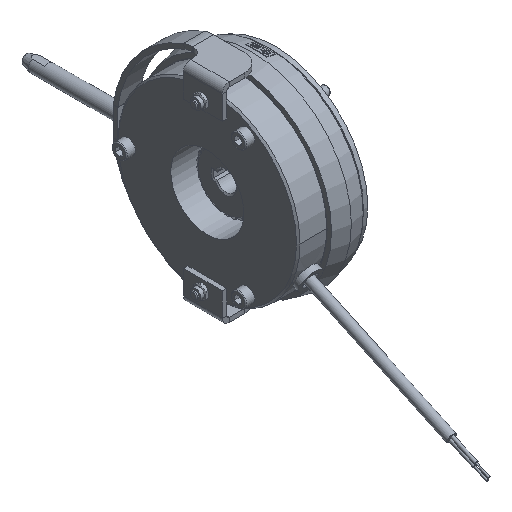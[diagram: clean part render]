
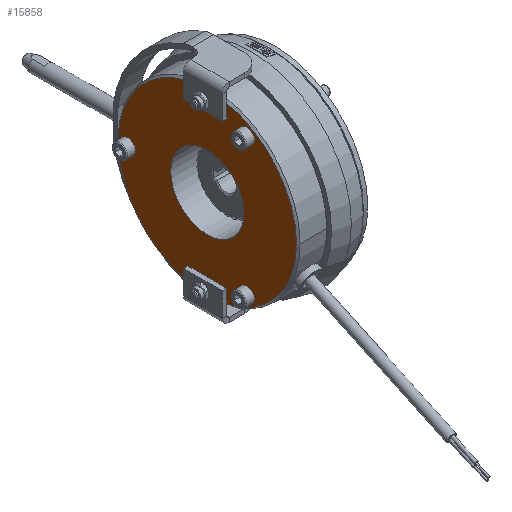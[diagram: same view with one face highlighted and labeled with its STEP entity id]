
A CAD part, isometric view. The second image highlights one B-rep face of the part: STEP entity #15858.
In plain terms, the highlighted planar face has unit normal (-1, 0, 0).
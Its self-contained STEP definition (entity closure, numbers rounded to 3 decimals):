
#233=FACE_BOUND('',#2290,.T.);
#234=FACE_BOUND('',#2291,.T.);
#235=FACE_BOUND('',#2292,.T.);
#236=FACE_BOUND('',#2293,.T.);
#625=PLANE('',#17413);
#1447=FACE_OUTER_BOUND('',#2289,.T.);
#2289=EDGE_LOOP('',(#14006,#14007,#14008,#14009,#14010,#14011,#14012,#14013,
#14014));
#2290=EDGE_LOOP('',(#14015,#14016));
#2291=EDGE_LOOP('',(#14017,#14018));
#2292=EDGE_LOOP('',(#14019,#14020));
#2293=EDGE_LOOP('',(#14021));
#3154=CIRCLE('',#16441,4.25);
#3155=CIRCLE('',#16442,4.25);
#3168=CIRCLE('',#16469,4.25);
#3169=CIRCLE('',#16470,4.25);
#3182=CIRCLE('',#16497,4.25);
#3183=CIRCLE('',#16498,4.25);
#3649=CIRCLE('',#17410,50.5);
#3650=CIRCLE('',#17411,50.5);
#3651=CIRCLE('',#17412,50.5);
#3652=CIRCLE('',#17414,20.75);
#4436=LINE('',#32716,#5325);
#4442=LINE('',#32733,#5331);
#4446=LINE('',#32739,#5335);
#4457=LINE('',#32768,#5346);
#4464=LINE('',#32784,#5353);
#4466=LINE('',#32787,#5355);
#5325=VECTOR('',#20903,10.);
#5331=VECTOR('',#20923,10.);
#5335=VECTOR('',#20929,10.);
#5346=VECTOR('',#20958,10.);
#5353=VECTOR('',#20975,10.);
#5355=VECTOR('',#20979,10.);
#6339=VERTEX_POINT('',#30624);
#6340=VERTEX_POINT('',#30625);
#6366=VERTEX_POINT('',#30716);
#6367=VERTEX_POINT('',#30717);
#6393=VERTEX_POINT('',#30808);
#6394=VERTEX_POINT('',#30809);
#6853=VERTEX_POINT('',#32641);
#6854=VERTEX_POINT('',#32642);
#6882=VERTEX_POINT('',#32713);
#6883=VERTEX_POINT('',#32715);
#6884=VERTEX_POINT('',#32719);
#6887=VERTEX_POINT('',#32732);
#6897=VERTEX_POINT('',#32767);
#6901=VERTEX_POINT('',#32782);
#6990=VERTEX_POINT('',#33248);
#6991=VERTEX_POINT('',#33254);
#8265=EDGE_CURVE('',#6339,#6340,#3154,.T.);
#8266=EDGE_CURVE('',#6340,#6339,#3155,.T.);
#8302=EDGE_CURVE('',#6366,#6367,#3168,.T.);
#8303=EDGE_CURVE('',#6367,#6366,#3169,.T.);
#8339=EDGE_CURVE('',#6393,#6394,#3182,.T.);
#8340=EDGE_CURVE('',#6394,#6393,#3183,.T.);
#9141=EDGE_CURVE('',#6883,#6882,#4436,.T.);
#9150=EDGE_CURVE('',#6887,#6884,#4442,.T.);
#9154=EDGE_CURVE('',#6882,#6887,#4446,.T.);
#9168=EDGE_CURVE('',#6897,#6853,#4457,.T.);
#9177=EDGE_CURVE('',#6854,#6901,#4464,.T.);
#9179=EDGE_CURVE('',#6901,#6897,#4466,.T.);
#9337=EDGE_CURVE('',#6990,#6884,#3649,.T.);
#9338=EDGE_CURVE('',#6883,#6853,#3650,.T.);
#9339=EDGE_CURVE('',#6854,#6990,#3651,.T.);
#9340=EDGE_CURVE('',#6991,#6991,#3652,.T.);
#14006=ORIENTED_EDGE('',*,*,#9150,.T.);
#14007=ORIENTED_EDGE('',*,*,#9337,.F.);
#14008=ORIENTED_EDGE('',*,*,#9339,.F.);
#14009=ORIENTED_EDGE('',*,*,#9177,.T.);
#14010=ORIENTED_EDGE('',*,*,#9179,.T.);
#14011=ORIENTED_EDGE('',*,*,#9168,.T.);
#14012=ORIENTED_EDGE('',*,*,#9338,.F.);
#14013=ORIENTED_EDGE('',*,*,#9141,.T.);
#14014=ORIENTED_EDGE('',*,*,#9154,.T.);
#14015=ORIENTED_EDGE('',*,*,#8265,.T.);
#14016=ORIENTED_EDGE('',*,*,#8266,.T.);
#14017=ORIENTED_EDGE('',*,*,#8302,.T.);
#14018=ORIENTED_EDGE('',*,*,#8303,.T.);
#14019=ORIENTED_EDGE('',*,*,#8339,.T.);
#14020=ORIENTED_EDGE('',*,*,#8340,.T.);
#14021=ORIENTED_EDGE('',*,*,#9340,.T.);
#15858=ADVANCED_FACE('',(#1447,#233,#234,#235,#236),#625,.T.);
#16441=AXIS2_PLACEMENT_3D('',#30626,#18959,#18960);
#16442=AXIS2_PLACEMENT_3D('',#30627,#18961,#18962);
#16469=AXIS2_PLACEMENT_3D('',#30718,#19031,#19032);
#16470=AXIS2_PLACEMENT_3D('',#30719,#19033,#19034);
#16497=AXIS2_PLACEMENT_3D('',#30810,#19103,#19104);
#16498=AXIS2_PLACEMENT_3D('',#30811,#19105,#19106);
#17410=AXIS2_PLACEMENT_3D('',#33250,#21360,#21361);
#17411=AXIS2_PLACEMENT_3D('',#33251,#21362,#21363);
#17412=AXIS2_PLACEMENT_3D('',#33252,#21364,#21365);
#17413=AXIS2_PLACEMENT_3D('',#33253,#21366,#21367);
#17414=AXIS2_PLACEMENT_3D('',#33255,#21368,#21369);
#18959=DIRECTION('center_axis',(1.,0.,0.));
#18960=DIRECTION('ref_axis',(0.,-1.,0.));
#18961=DIRECTION('center_axis',(1.,0.,0.));
#18962=DIRECTION('ref_axis',(0.,-1.,0.));
#19031=DIRECTION('center_axis',(1.,0.,0.));
#19032=DIRECTION('ref_axis',(0.,-1.,0.));
#19033=DIRECTION('center_axis',(1.,0.,0.));
#19034=DIRECTION('ref_axis',(0.,-1.,0.));
#19103=DIRECTION('center_axis',(1.,0.,0.));
#19104=DIRECTION('ref_axis',(0.,-1.,0.));
#19105=DIRECTION('center_axis',(1.,0.,0.));
#19106=DIRECTION('ref_axis',(0.,-1.,0.));
#20903=DIRECTION('',(0.,0.,-1.));
#20923=DIRECTION('',(0.,0.,1.));
#20929=DIRECTION('',(0.,1.,0.));
#20958=DIRECTION('',(0.,0.,-1.));
#20975=DIRECTION('',(0.,0.,1.));
#20979=DIRECTION('',(0.,-1.,0.));
#21360=DIRECTION('center_axis',(1.,0.,0.));
#21361=DIRECTION('ref_axis',(0.,-1.,0.));
#21362=DIRECTION('center_axis',(1.,0.,0.));
#21363=DIRECTION('ref_axis',(0.,-1.,0.));
#21364=DIRECTION('center_axis',(1.,0.,0.));
#21365=DIRECTION('ref_axis',(0.,-1.,0.));
#21366=DIRECTION('center_axis',(-1.,0.,0.));
#21367=DIRECTION('ref_axis',(0.,0.,
1.));
#21368=DIRECTION('center_axis',(1.,0.,0.));
#21369=DIRECTION('ref_axis',(0.,0.,
1.));
#30624=CARTESIAN_POINT('',(-18.2,-26.75,-38.971));
#30625=CARTESIAN_POINT('',(-18.2,-18.25,-38.971));
#30626=CARTESIAN_POINT('Origin',(-18.2,-22.5,-38.971));
#30627=CARTESIAN_POINT('Origin',(-18.2,-22.5,-38.971));
#30716=CARTESIAN_POINT('',(-18.2,-26.75,38.971));
#30717=CARTESIAN_POINT('',(-18.2,-18.25,38.971));
#30718=CARTESIAN_POINT('Origin',(-18.2,-22.5,38.971));
#30719=CARTESIAN_POINT('Origin',(-18.2,-22.5,38.971));
#30808=CARTESIAN_POINT('',(-18.2,40.75,0.));
#30809=CARTESIAN_POINT('',(-18.2,49.25,0.));
#30810=CARTESIAN_POINT('Origin',(-18.2,45.,0.));
#30811=CARTESIAN_POINT('Origin',(-18.2,45.,0.));
#32641=CARTESIAN_POINT('',(-18.2,-11.,-49.287));
#32642=CARTESIAN_POINT('',(-18.2,11.,-49.287));
#32713=CARTESIAN_POINT('',(-18.2,-11.,41.5));
#32715=CARTESIAN_POINT('',(-18.2,-11.,49.287));
#32716=CARTESIAN_POINT('',(-18.2,-11.,27.5));
#32719=CARTESIAN_POINT('',(-18.2,11.,49.287));
#32732=CARTESIAN_POINT('',(-18.2,11.,41.5));
#32733=CARTESIAN_POINT('',(-18.2,11.,27.5));
#32739=CARTESIAN_POINT('',(-18.2,18.375,41.5));
#32767=CARTESIAN_POINT('',(-18.2,-11.,-41.5));
#32768=CARTESIAN_POINT('',(-18.2,-11.,-27.5));
#32782=CARTESIAN_POINT('',(-18.2,11.,-41.5));
#32784=CARTESIAN_POINT('',(-18.2,11.,-27.5));
#32787=CARTESIAN_POINT('',(-18.2,18.375,-41.5));
#33248=CARTESIAN_POINT('',(-18.2,50.5,0.));
#33250=CARTESIAN_POINT('Origin',(-18.2,0.,0.));
#33251=CARTESIAN_POINT('Origin',(-18.2,0.,0.));
#33252=CARTESIAN_POINT('Origin',(-18.2,0.,0.));
#33253=CARTESIAN_POINT('Origin',(-18.2,25.75,0.));
#33254=CARTESIAN_POINT('',(-18.2,0.,-20.75));
#33255=CARTESIAN_POINT('Origin',(-18.2,0.,0.));
